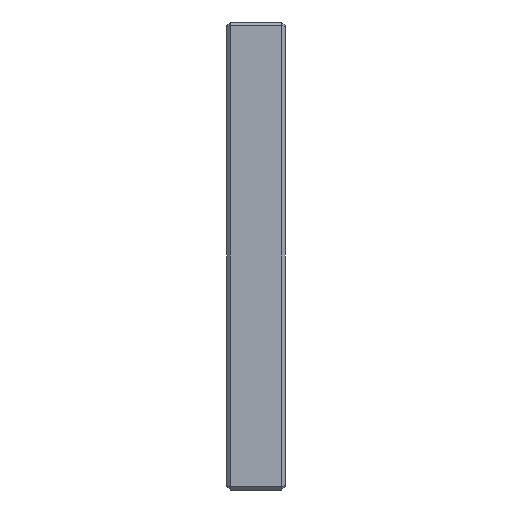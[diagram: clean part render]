
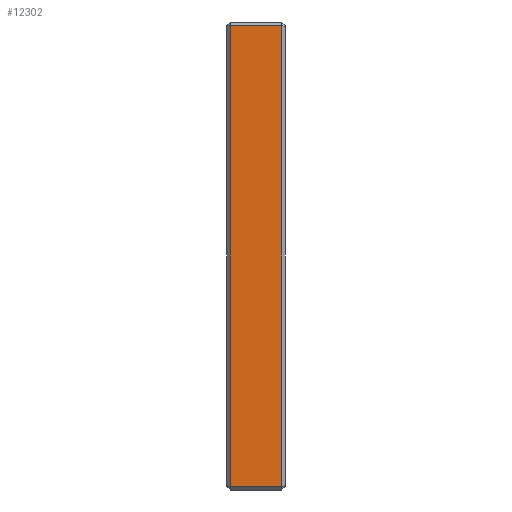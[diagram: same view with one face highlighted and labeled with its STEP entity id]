
A CAD part, left-side view. The second image highlights one B-rep face of the part: STEP entity #12302.
In plain terms, the highlighted planar face has unit normal (-1, 0, 0).
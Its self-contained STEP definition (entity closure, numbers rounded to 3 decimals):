
#3085=DIRECTION('',(0.,0.,1.));
#3086=VECTOR('',#3085,394.);
#3087=CARTESIAN_POINT('',(-400.,22.,-197.));
#3088=LINE('',#3087,#3086);
#3089=DIRECTION('',(0.,-1.,0.));
#3090=VECTOR('',#3089,44.);
#3091=CARTESIAN_POINT('',(-400.,22.,197.));
#3092=LINE('',#3091,#3090);
#3093=DIRECTION('',(0.,0.,-1.));
#3094=VECTOR('',#3093,394.);
#3095=CARTESIAN_POINT('',(-400.,-22.,197.));
#3096=LINE('',#3095,#3094);
#3097=DIRECTION('',(0.,-1.,0.));
#3098=VECTOR('',#3097,44.);
#3099=CARTESIAN_POINT('',(-400.,22.,-197.));
#3100=LINE('',#3099,#3098);
#8425=CARTESIAN_POINT('',(-400.,22.,-197.));
#8426=VERTEX_POINT('',#8425);
#8429=CARTESIAN_POINT('',(-400.,22.,197.));
#8430=VERTEX_POINT('',#8429);
#8442=CARTESIAN_POINT('',(-400.,-22.,197.));
#8444=VERTEX_POINT('',#8442);
#8449=CARTESIAN_POINT('',(-400.,-22.,-197.));
#8450=VERTEX_POINT('',#8449);
#12289=CARTESIAN_POINT('',(-400.,-25.,-200.));
#12290=DIRECTION('',(-1.,0.,0.));
#12291=DIRECTION('',(0.,0.,1.));
#12292=AXIS2_PLACEMENT_3D('',#12289,#12290,#12291);
#12293=PLANE('',#12292);
#12294=ORIENTED_EDGE('',*,*,#12280,.T.);
#12296=ORIENTED_EDGE('',*,*,#12295,.T.);
#12298=ORIENTED_EDGE('',*,*,#12297,.T.);
#12299=ORIENTED_EDGE('',*,*,#12254,.F.);
#12300=EDGE_LOOP('',(#12294,#12296,#12298,#12299));
#12301=FACE_OUTER_BOUND('',#12300,.F.);
#12302=ADVANCED_FACE('',(#12301),#12293,.T.);
#12254=EDGE_CURVE('',#8426,#8450,#3100,.T.);
#12280=EDGE_CURVE('',#8426,#8430,#3088,.T.);
#12295=EDGE_CURVE('',#8430,#8444,#3092,.T.);
#12297=EDGE_CURVE('',#8444,#8450,#3096,.T.);
